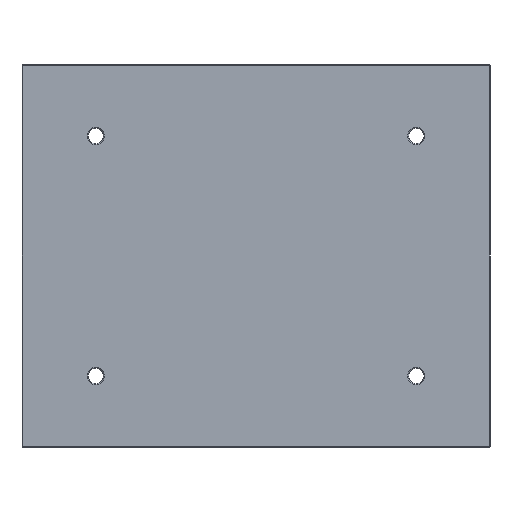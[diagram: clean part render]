
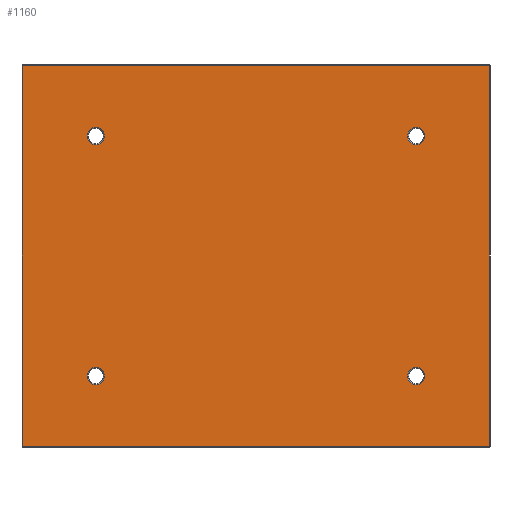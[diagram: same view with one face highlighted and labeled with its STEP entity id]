
A CAD part, front view. The second image highlights one B-rep face of the part: STEP entity #1160.
In plain terms, the highlighted planar face has unit normal (0, -1, 0).
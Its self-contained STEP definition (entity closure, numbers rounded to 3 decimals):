
#1 = DIRECTION ( 'NONE',  ( 0., 0., 1. ) ) ;
#10 = CIRCLE ( 'NONE', #566, 10. ) ;
#30 = VERTEX_POINT ( 'NONE', #126 ) ;
#55 = CARTESIAN_POINT ( 'NONE',  ( 272., 0., 222. ) ) ;
#66 = FACE_BOUND ( 'NONE', #1603, .T. ) ;
#72 = CARTESIAN_POINT ( 'NONE',  ( 272., 0., -222. ) ) ;
#99 = VERTEX_POINT ( 'NONE', #393 ) ;
#100 = AXIS2_PLACEMENT_3D ( 'NONE', #557, #565, #573 ) ;
#106 = ORIENTED_EDGE ( 'NONE', *, *, #474, .T. ) ;
#116 = AXIS2_PLACEMENT_3D ( 'NONE', #1296, #743, #721 ) ;
#118 = VERTEX_POINT ( 'NONE', #492 ) ;
#119 = ORIENTED_EDGE ( 'NONE', *, *, #1650, .T. ) ;
#126 = CARTESIAN_POINT ( 'NONE',  ( -187., 0., 150. ) ) ;
#135 = EDGE_LOOP ( 'NONE', ( #1175, #569 ) ) ;
#165 = DIRECTION ( 'NONE',  ( -1., 0., 0. ) ) ;
#198 = EDGE_LOOP ( 'NONE', ( #356, #119 ) ) ;
#204 = EDGE_CURVE ( 'NONE', #99, #871, #1319, .T. ) ;
#245 = CARTESIAN_POINT ( 'NONE',  ( 187., 0., -140. ) ) ;
#282 = DIRECTION ( 'NONE',  ( 0., 1., 0. ) ) ;
#287 = DIRECTION ( 'NONE',  ( 0., 0., 1. ) ) ;
#356 = ORIENTED_EDGE ( 'NONE', *, *, #1221, .T. ) ;
#363 = CARTESIAN_POINT ( 'NONE',  ( -272., 0., 222. ) ) ;
#376 = LINE ( 'NONE', #1043, #670 ) ;
#393 = CARTESIAN_POINT ( 'NONE',  ( -187., 0., -150. ) ) ;
#395 = VERTEX_POINT ( 'NONE', #72 ) ;
#439 = CARTESIAN_POINT ( 'NONE',  ( 187., 0., -130. ) ) ;
#466 = VECTOR ( 'NONE', #622, 1000. ) ;
#474 = EDGE_CURVE ( 'NONE', #1158, #395, #376, .T. ) ;
#477 = VECTOR ( 'NONE', #165, 1000. ) ;
#492 = CARTESIAN_POINT ( 'NONE',  ( 187., 0., -150. ) ) ;
#497 = ORIENTED_EDGE ( 'NONE', *, *, #1064, .T. ) ;
#518 = EDGE_LOOP ( 'NONE', ( #608, #813, #611, #106 ) ) ;
#530 = DIRECTION ( 'NONE',  ( 0., 0., 1. ) ) ;
#547 = DIRECTION ( 'NONE',  ( 0., 1., 0. ) ) ;
#557 = CARTESIAN_POINT ( 'NONE',  ( -187., 0., -140. ) ) ;
#565 = DIRECTION ( 'NONE',  ( 0., 1., 0. ) ) ;
#566 = AXIS2_PLACEMENT_3D ( 'NONE', #245, #282, #287 ) ;
#569 = ORIENTED_EDGE ( 'NONE', *, *, #1030, .T. ) ;
#573 = DIRECTION ( 'NONE',  ( 0., 0., 1. ) ) ;
#589 = CIRCLE ( 'NONE', #1357, 10. ) ;
#608 = ORIENTED_EDGE ( 'NONE', *, *, #1316, .T. ) ;
#611 = ORIENTED_EDGE ( 'NONE', *, *, #1143, .T. ) ;
#622 = DIRECTION ( 'NONE',  ( 0., 0., -1. ) ) ;
#670 = VECTOR ( 'NONE', #1084, 1000. ) ;
#676 = CARTESIAN_POINT ( 'NONE',  ( 187., 0., -140. ) ) ;
#677 = CARTESIAN_POINT ( 'NONE',  ( 187., 0., 150. ) ) ;
#679 = EDGE_CURVE ( 'NONE', #871, #99, #1467, .T. ) ;
#687 = VERTEX_POINT ( 'NONE', #439 ) ;
#691 = FACE_BOUND ( 'NONE', #135, .T. ) ;
#711 = VERTEX_POINT ( 'NONE', #677 ) ;
#721 = DIRECTION ( 'NONE',  ( 0., 0., 1. ) ) ;
#729 = FACE_OUTER_BOUND ( 'NONE', #518, .T. ) ;
#743 = DIRECTION ( 'NONE',  ( 0., 1., 0. ) ) ;
#758 = CARTESIAN_POINT ( 'NONE',  ( -187., 0., 140. ) ) ;
#765 = DIRECTION ( 'NONE',  ( 0., 0., 1. ) ) ;
#774 = CARTESIAN_POINT ( 'NONE',  ( -187., 0., 130. ) ) ;
#780 = CIRCLE ( 'NONE', #1505, 10. ) ;
#788 = ORIENTED_EDGE ( 'NONE', *, *, #1011, .T. ) ;
#792 = CARTESIAN_POINT ( 'NONE',  ( 187., 0., 140. ) ) ;
#813 = ORIENTED_EDGE ( 'NONE', *, *, #1629, .T. ) ;
#822 = LINE ( 'NONE', #1584, #477 ) ;
#866 = CARTESIAN_POINT ( 'NONE',  ( -187., 0., -140. ) ) ;
#871 = VERTEX_POINT ( 'NONE', #1295 ) ;
#875 = ORIENTED_EDGE ( 'NONE', *, *, #679, .T. ) ;
#876 = DIRECTION ( 'NONE',  ( 0., 1., 0. ) ) ;
#880 = DIRECTION ( 'NONE',  ( 0., 0., 1. ) ) ;
#884 = AXIS2_PLACEMENT_3D ( 'NONE', #1298, #1439, #1458 ) ;
#896 = FACE_BOUND ( 'NONE', #1465, .T. ) ;
#921 = AXIS2_PLACEMENT_3D ( 'NONE', #758, #1473, #765 ) ;
#997 = CIRCLE ( 'NONE', #1063, 10. ) ;
#1011 = EDGE_CURVE ( 'NONE', #687, #118, #10, .T. ) ;
#1030 = EDGE_CURVE ( 'NONE', #30, #1134, #1281, .T. ) ;
#1043 = CARTESIAN_POINT ( 'NONE',  ( 0., 0., -222. ) ) ;
#1046 = DIRECTION ( 'NONE',  ( 0., 0., 1. ) ) ;
#1063 = AXIS2_PLACEMENT_3D ( 'NONE', #792, #1564, #1046 ) ;
#1064 = EDGE_CURVE ( 'NONE', #118, #687, #589, .T. ) ;
#1084 = DIRECTION ( 'NONE',  ( 1., 0., 0. ) ) ;
#1090 = VECTOR ( 'NONE', #1, 1000. ) ;
#1100 = AXIS2_PLACEMENT_3D ( 'NONE', #866, #876, #880 ) ;
#1122 = EDGE_CURVE ( 'NONE', #1134, #30, #1464, .T. ) ;
#1134 = VERTEX_POINT ( 'NONE', #774 ) ;
#1143 = EDGE_CURVE ( 'NONE', #1599, #1158, #1152, .T. ) ;
#1145 = CARTESIAN_POINT ( 'NONE',  ( 187., 0., 140. ) ) ;
#1152 = LINE ( 'NONE', #1224, #466 ) ;
#1158 = VERTEX_POINT ( 'NONE', #1360 ) ;
#1160 = ADVANCED_FACE ( 'NONE', ( #896, #1427, #691, #66, #729 ), #1409, .F. ) ;
#1175 = ORIENTED_EDGE ( 'NONE', *, *, #1122, .T. ) ;
#1179 = DIRECTION ( 'NONE',  ( 0., 1., 0. ) ) ;
#1221 = EDGE_CURVE ( 'NONE', #1282, #711, #997, .T. ) ;
#1224 = CARTESIAN_POINT ( 'NONE',  ( -272., 0., 0. ) ) ;
#1272 = CARTESIAN_POINT ( 'NONE',  ( 187., 0., 130. ) ) ;
#1281 = CIRCLE ( 'NONE', #921, 10. ) ;
#1282 = VERTEX_POINT ( 'NONE', #1272 ) ;
#1287 = DIRECTION ( 'NONE',  ( 0., 0., 1. ) ) ;
#1295 = CARTESIAN_POINT ( 'NONE',  ( -187., 0., -130. ) ) ;
#1296 = CARTESIAN_POINT ( 'NONE',  ( -187., 0., 140. ) ) ;
#1298 = CARTESIAN_POINT ( 'NONE',  ( 0., 0., 0. ) ) ;
#1316 = EDGE_CURVE ( 'NONE', #395, #1622, #1401, .T. ) ;
#1319 = CIRCLE ( 'NONE', #1100, 10. ) ;
#1349 = ORIENTED_EDGE ( 'NONE', *, *, #204, .T. ) ;
#1357 = AXIS2_PLACEMENT_3D ( 'NONE', #676, #547, #530 ) ;
#1360 = CARTESIAN_POINT ( 'NONE',  ( -272., 0., -222. ) ) ;
#1401 = LINE ( 'NONE', #1651, #1090 ) ;
#1409 = PLANE ( 'NONE',  #884 ) ;
#1427 = FACE_BOUND ( 'NONE', #198, .T. ) ;
#1439 = DIRECTION ( 'NONE',  ( 0., 1., 0. ) ) ;
#1458 = DIRECTION ( 'NONE',  ( 0., 0., 1. ) ) ;
#1464 = CIRCLE ( 'NONE', #116, 10. ) ;
#1465 = EDGE_LOOP ( 'NONE', ( #497, #788 ) ) ;
#1467 = CIRCLE ( 'NONE', #100, 10. ) ;
#1473 = DIRECTION ( 'NONE',  ( 0., 1., 0. ) ) ;
#1505 = AXIS2_PLACEMENT_3D ( 'NONE', #1145, #1179, #1287 ) ;
#1564 = DIRECTION ( 'NONE',  ( 0., 1., 0. ) ) ;
#1584 = CARTESIAN_POINT ( 'NONE',  ( 0., 0., 222. ) ) ;
#1599 = VERTEX_POINT ( 'NONE', #363 ) ;
#1603 = EDGE_LOOP ( 'NONE', ( #1349, #875 ) ) ;
#1622 = VERTEX_POINT ( 'NONE', #55 ) ;
#1629 = EDGE_CURVE ( 'NONE', #1622, #1599, #822, .T. ) ;
#1650 = EDGE_CURVE ( 'NONE', #711, #1282, #780, .T. ) ;
#1651 = CARTESIAN_POINT ( 'NONE',  ( 272., 0., 0. ) ) ;
